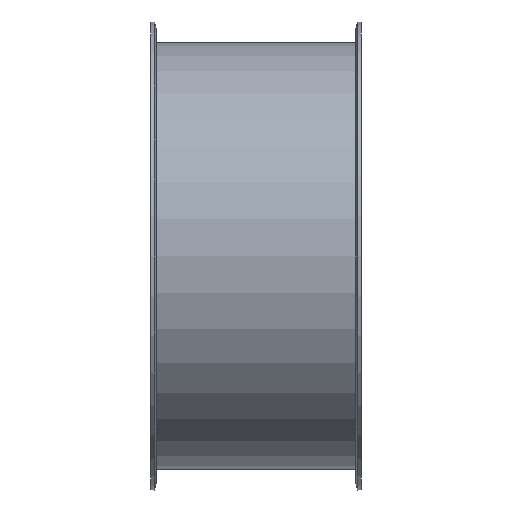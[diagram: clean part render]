
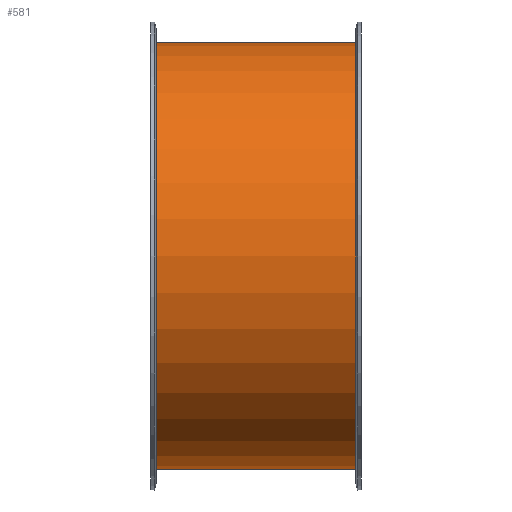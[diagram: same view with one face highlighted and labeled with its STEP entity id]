
A CAD part, front view. The second image highlights one B-rep face of the part: STEP entity #581.
In plain terms, the highlighted cylindrical face has radius 134.805 mm (diameter 269.61 mm), a full revolution.
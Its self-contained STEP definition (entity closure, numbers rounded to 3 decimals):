
#35=FACE_BOUND('',#137,.T.);
#89=FACE_OUTER_BOUND('',#136,.T.);
#136=EDGE_LOOP('',(#486));
#137=EDGE_LOOP('',(#487));
#218=CIRCLE('',#660,134.805);
#219=CIRCLE('',#661,134.805);
#298=VERTEX_POINT('',#1172);
#299=VERTEX_POINT('',#1174);
#373=EDGE_CURVE('',#298,#298,#218,.T.);
#374=EDGE_CURVE('',#299,#299,#219,.T.);
#486=ORIENTED_EDGE('',*,*,#373,.F.);
#487=ORIENTED_EDGE('',*,*,#374,.F.);
#555=CYLINDRICAL_SURFACE('',#659,134.805);
#581=ADVANCED_FACE('',(#89,#35),#555,.T.);
#659=AXIS2_PLACEMENT_3D('',#1171,#810,#811);
#660=AXIS2_PLACEMENT_3D('',#1173,#812,#813);
#661=AXIS2_PLACEMENT_3D('',#1175,#814,#815);
#810=DIRECTION('center_axis',(1.,0.,0.));
#811=DIRECTION('ref_axis',(0.,1.,0.));
#812=DIRECTION('center_axis',(-1.,0.,0.));
#813=DIRECTION('ref_axis',(0.,1.,0.));
#814=DIRECTION('center_axis',(1.,0.,0.));
#815=DIRECTION('ref_axis',(0.,1.,0.));
#1171=CARTESIAN_POINT('Origin',(68.548,-16.356,0.));
#1172=CARTESIAN_POINT('',(5.548,118.449,0.));
#1173=CARTESIAN_POINT('Origin',(5.548,-16.356,0.));
#1174=CARTESIAN_POINT('',(131.548,118.449,0.));
#1175=CARTESIAN_POINT('Origin',(131.548,-16.356,0.));
